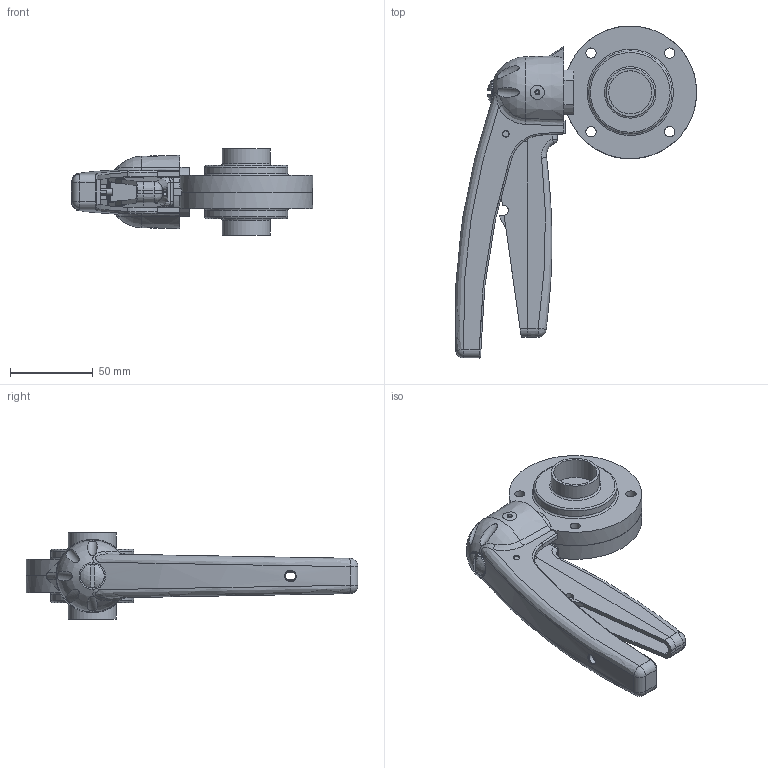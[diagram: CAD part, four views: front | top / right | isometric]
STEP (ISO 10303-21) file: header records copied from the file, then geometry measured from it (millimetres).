
FILE_DESCRIPTION(/* description */ ('VVF VALV.FARF.DN 29X1.5 SS EPDM 316 LEVA 5POS.'),/* implementation_level */ '2;1');
FILE_NAME(/* name */ 'C:\_DED_PWS\GIOR-G\DB\B\EBA\BEBACG025BEAA-00^SAGOMA.step',/* time_stamp */ '2020-06-12T13:48:42+02:00',/* author */ (''),/* organization */ (''),/* preprocessor_version */ 'ST-DEVELOPER v18',/* originating_system */ 'Autodesk Inventor 2020',/* authorisation */ '');
FILE_SCHEMA (('CONFIG_CONTROL_DESIGN'));
Length unit declared in the file: millimetre
Products named in the file (3): BEBACG025BEAA; Maniglia-5-posizioni-nuova-versione finale 01-2008- 25 - - 65; TWD006025BBA
Assembly tree (3 placements, depth 2):
  BEBACG025BEAA
    Maniglia-5-posizioni-nuova-versione finale 01-2008- 25 - - 65
    TWD006025BBA  x2
Bounding box: 145.39 x 200 x 52 mm (x, y, z)
Volume: 217528.6 mm3; surface area: 85546.6 mm2
Topology: 3 solids, 4 shells, 436 faces, 1167 edges, 756 vertices
Faces by surface type: plane 194, cylinder 100, bspline 81, cone 28, sphere 18, torus 15
Full cylindrical faces by diameter (mm): 4 x3, 6 x2, 6.2 x8, 6.5 x1, 13 x1, 14.5 x1, 26 x2, 29 x2, 50 x2, 80 x2
Entity records: 22442 total; most frequent: CARTESIAN_POINT 12015, ORIENTED_EDGE 2234, DIRECTION 1894, EDGE_CURVE 1117, VERTEX_POINT 719, AXIS2_PLACEMENT_3D 683, LINE 528, VECTOR 528
